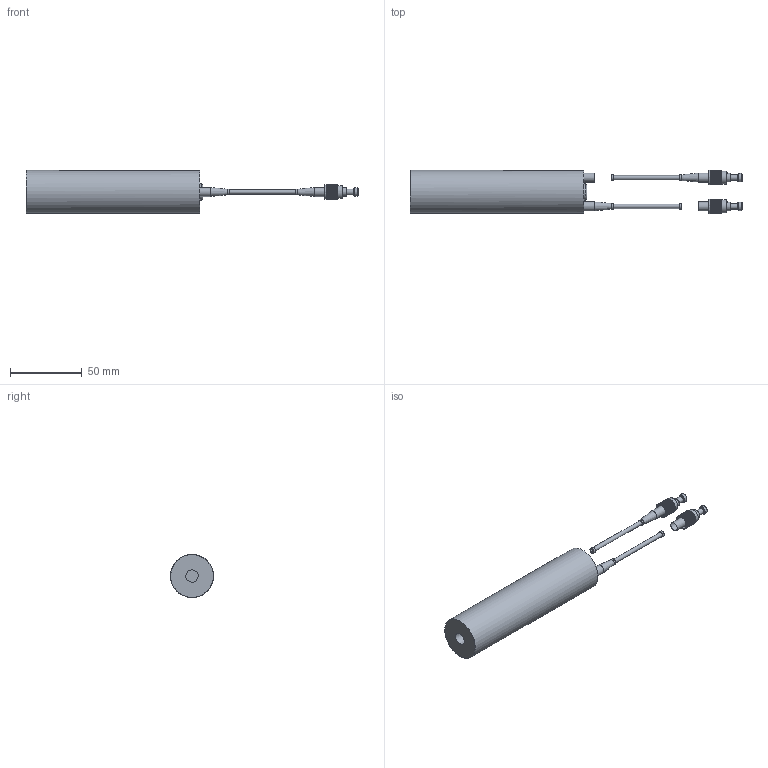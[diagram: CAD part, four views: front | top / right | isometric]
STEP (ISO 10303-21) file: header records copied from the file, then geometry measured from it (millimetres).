
FILE_DESCRIPTION(/* description */ (''),/* implementation_level */ '2;1');
FILE_NAME(/* name */ 'C:/Fusion/Pressure sensor/P 1 TR.step',/* time_stamp */ '2021-04-01T16:40:23+02:00',/* author */ (''),/* organization */ (''),/* preprocessor_version */ 'ST-DEVELOPER v18.1',/* originating_system */ 'Autodesk Translation Framework v9.10.0.1330',/* authorisation */ '');
FILE_SCHEMA (('AUTOMOTIVE_DESIGN { 1 0 10303 214 3 1 1 }'));
Length unit declared in the file: millimetre
Products named in the file (1): P 1 TR
Bounding box: 231.1 x 30 x 29.95 mm (x, y, z)
Volume: 88616 mm3; surface area: 18426.4 mm2
Topology: 2 solids, 2 shells, 695 faces, 1979 edges, 1316 vertices
Faces by surface type: plane 444, cylinder 235, cone 12, torus 3, bspline 1
Full cylindrical faces by diameter (mm): 3 x2, 3.2 x4, 4 x6, 4.8 x1, 5 x2, 5.8 x2, 6 x2, 6.3 x4, 7.6 x2, 8.566 x1, 9 x4, 11.2 x1, 27 x1, 30 x1
Entity records: 24734 total; most frequent: CARTESIAN_POINT 6086, ORIENTED_EDGE 3958, DIRECTION 3865, EDGE_CURVE 1979, LINE 1461, VECTOR 1461, VERTEX_POINT 1316, AXIS2_PLACEMENT_3D 1202
